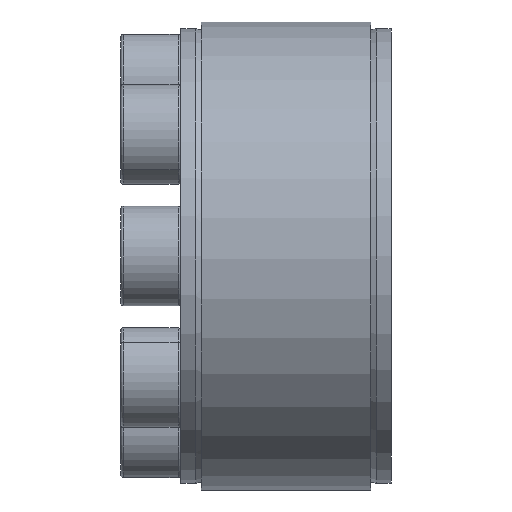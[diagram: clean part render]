
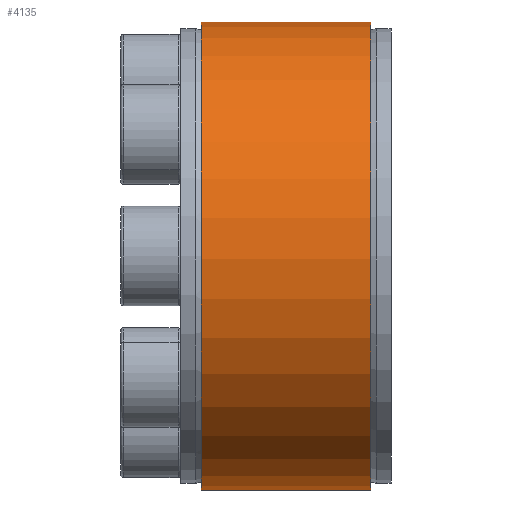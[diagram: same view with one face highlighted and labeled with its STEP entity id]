
A CAD part, front view. The second image highlights one B-rep face of the part: STEP entity #4135.
In plain terms, the highlighted cylindrical face has radius 23.5 mm (diameter 47 mm), a partial arc.
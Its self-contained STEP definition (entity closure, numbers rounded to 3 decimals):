
#341 = LINE ( 'NONE', #2472, #5297 ) ;
#505 = CARTESIAN_POINT ( 'NONE',  ( 8.5, 0., 0. ) ) ;
#556 = CYLINDRICAL_SURFACE ( 'NONE', #1618, 23.5 ) ;
#784 = VERTEX_POINT ( 'NONE', #6854 ) ;
#1048 = DIRECTION ( 'NONE',  ( -1., 0., 0. ) ) ;
#1074 = ORIENTED_EDGE ( 'NONE', *, *, #4150, .T. ) ;
#1336 = LINE ( 'NONE', #2923, #2316 ) ;
#1403 = CARTESIAN_POINT ( 'NONE',  ( -8.5, 0., 0. ) ) ;
#1596 = DIRECTION ( 'NONE',  ( -1., 0., 0. ) ) ;
#1618 = AXIS2_PLACEMENT_3D ( 'NONE', #4410, #1596, #6561 ) ;
#1825 = EDGE_CURVE ( 'NONE', #2092, #2184, #341, .T. ) ;
#1862 = CARTESIAN_POINT ( 'NONE',  ( 8.5, -0.621, 23.492 ) ) ;
#1935 = EDGE_LOOP ( 'NONE', ( #7024, #1074, #2212, #5359 ) ) ;
#1987 = AXIS2_PLACEMENT_3D ( 'NONE', #505, #1048, #3770 ) ;
#2004 = DIRECTION ( 'NONE',  ( 0., 0., 1. ) ) ;
#2092 = VERTEX_POINT ( 'NONE', #4990 ) ;
#2128 = DIRECTION ( 'NONE',  ( 1., 0., 0. ) ) ;
#2184 = VERTEX_POINT ( 'NONE', #1862 ) ;
#2212 = ORIENTED_EDGE ( 'NONE', *, *, #1825, .F. ) ;
#2316 = VECTOR ( 'NONE', #3423, 1000. ) ;
#2340 = FACE_OUTER_BOUND ( 'NONE', #1935, .T. ) ;
#2472 = CARTESIAN_POINT ( 'NONE',  ( -8.5, -0.621, 23.492 ) ) ;
#2923 = CARTESIAN_POINT ( 'NONE',  ( -8.5, 0.779, 23.487 ) ) ;
#3273 = EDGE_CURVE ( 'NONE', #784, #6093, #1336, .T. ) ;
#3423 = DIRECTION ( 'NONE',  ( -1., 0., 0. ) ) ;
#3770 = DIRECTION ( 'NONE',  ( 0., 0., 1. ) ) ;
#4135 = ADVANCED_FACE ( 'NONE', ( #2340 ), #556, .T. ) ;
#4150 = EDGE_CURVE ( 'NONE', #784, #2184, #5479, .T. ) ;
#4245 = CIRCLE ( 'NONE', #5053, 23.5 ) ;
#4410 = CARTESIAN_POINT ( 'NONE',  ( -8.5, 0., 0. ) ) ;
#4990 = CARTESIAN_POINT ( 'NONE',  ( -8.5, -0.621, 23.492 ) ) ;
#5053 = AXIS2_PLACEMENT_3D ( 'NONE', #1403, #5798, #2004 ) ;
#5251 = CARTESIAN_POINT ( 'NONE',  ( -8.5, 0.779, 23.487 ) ) ;
#5297 = VECTOR ( 'NONE', #2128, 1000. ) ;
#5322 = EDGE_CURVE ( 'NONE', #6093, #2092, #4245, .T. ) ;
#5359 = ORIENTED_EDGE ( 'NONE', *, *, #5322, .F. ) ;
#5479 = CIRCLE ( 'NONE', #1987, 23.5 ) ;
#5798 = DIRECTION ( 'NONE',  ( -1., 0., 0. ) ) ;
#6093 = VERTEX_POINT ( 'NONE', #5251 ) ;
#6561 = DIRECTION ( 'NONE',  ( 0., 0., 1. ) ) ;
#6854 = CARTESIAN_POINT ( 'NONE',  ( 8.5, 0.779, 23.487 ) ) ;
#7024 = ORIENTED_EDGE ( 'NONE', *, *, #3273, .F. ) ;
